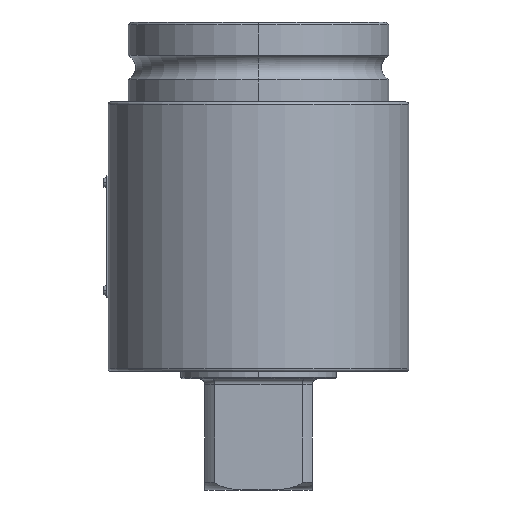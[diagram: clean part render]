
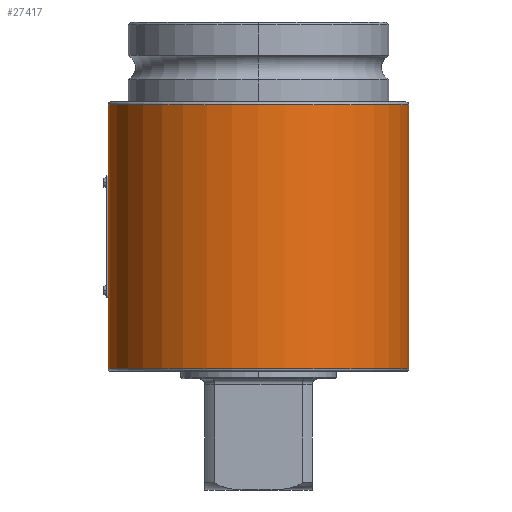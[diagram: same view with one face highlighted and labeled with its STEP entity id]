
A CAD part, front view. The second image highlights one B-rep face of the part: STEP entity #27417.
In plain terms, the highlighted cylindrical face has radius 53 mm (diameter 106 mm), a partial arc.
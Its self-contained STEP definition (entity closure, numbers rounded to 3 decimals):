
#9028=DIRECTION('',(0.,0.,-1.));
#9029=VECTOR('',#9028,93.);
#9030=CARTESIAN_POINT('',(-53.,0.,46.5));
#9031=LINE('',#9030,#9029);
#9108=CARTESIAN_POINT('',(0.,0.,-46.5));
#9109=DIRECTION('',(0.,0.,-1.));
#9110=DIRECTION('',(1.,0.,0.));
#9111=AXIS2_PLACEMENT_3D('',#9108,#9109,#9110);
#9113=CARTESIAN_POINT('',(0.,0.,46.5));
#9114=DIRECTION('',(0.,0.,1.));
#9115=DIRECTION('',(-1.,0.,0.));
#9116=AXIS2_PLACEMENT_3D('',#9113,#9114,#9115);
#9118=DIRECTION('',(0.,0.,-1.));
#9119=VECTOR('',#9118,93.);
#9120=CARTESIAN_POINT('',(53.,0.,46.5));
#9121=LINE('',#9120,#9119);
#17441=CARTESIAN_POINT('',(53.,0.,46.5));
#17442=VERTEX_POINT('',#17441);
#17447=CARTESIAN_POINT('',(-53.,0.,46.5));
#17448=VERTEX_POINT('',#17447);
#17457=CARTESIAN_POINT('',(-53.,0.,-46.5));
#17458=VERTEX_POINT('',#17457);
#17463=CARTESIAN_POINT('',(53.,0.,-46.5));
#17464=VERTEX_POINT('',#17463);
#27405=CARTESIAN_POINT('',(0.,0.,47.5));
#27406=DIRECTION('',(0.,0.,-1.));
#27407=DIRECTION('',(-1.,0.,0.));
#27408=AXIS2_PLACEMENT_3D('',#27405,#27406,#27407);
#27409=CYLINDRICAL_SURFACE('',#27408,53.);
#27410=ORIENTED_EDGE('',*,*,#27392,.T.);
#27411=ORIENTED_EDGE('',*,*,#27236,.F.);
#27413=ORIENTED_EDGE('',*,*,#27412,.T.);
#27414=ORIENTED_EDGE('',*,*,#27324,.T.);
#27415=EDGE_LOOP('',(#27410,#27411,#27413,#27414));
#27416=FACE_OUTER_BOUND('',#27415,.F.);
#9112=CIRCLE('',#9111,53.);
#9117=CIRCLE('',#9116,53.);
#27236=EDGE_CURVE('',#17448,#17458,#9031,.T.);
#27324=EDGE_CURVE('',#17442,#17464,#9121,.T.);
#27392=EDGE_CURVE('',#17464,#17458,#9112,.T.);
#27412=EDGE_CURVE('',#17448,#17442,#9117,.T.);
#27417=ADVANCED_FACE('',(#27416),#27409,.T.);
